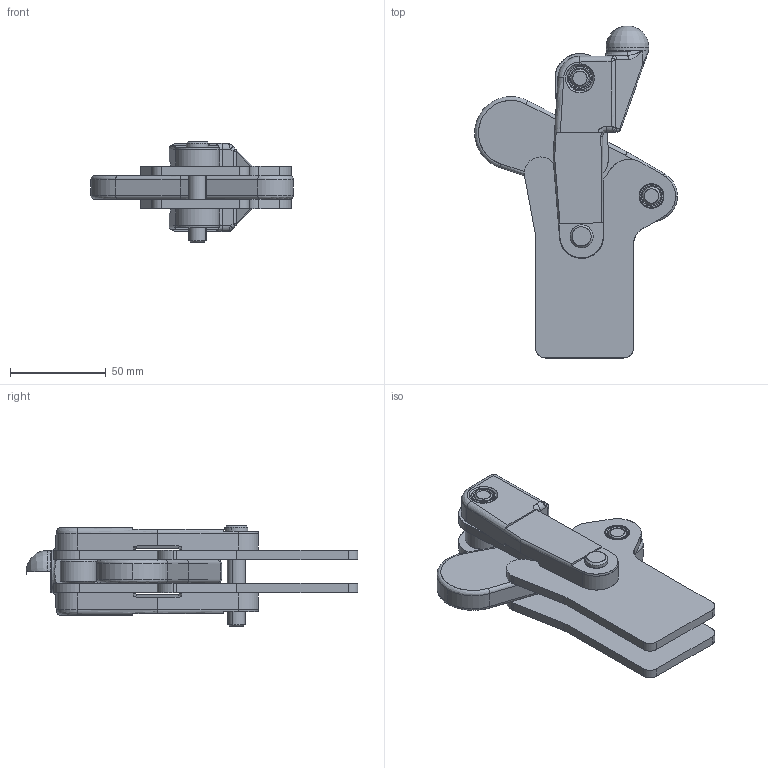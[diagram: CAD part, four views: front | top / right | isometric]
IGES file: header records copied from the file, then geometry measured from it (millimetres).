
Start section: SolidWorks IGES file using analytic representation for surfaces
Global section: file name: D:\GH Files\GH-SW-FILES\GH7\70505,70510,70515\70515.IGS; native system: SolidWorks 2006 by SolidWorks Corporation; preprocessor: SolidWorks 2006 by SolidWorks Corporation; author: Administrator; date: 060705.123031; units: millimetre
Bounding box: 105.93 x 173.45 x 53 mm (x, y, z)
Surface area: 72439.8 mm2 (no closed solid volume)
Topology: 0 solids, 0 shells, 374 faces, 5112 edges, 5107 vertices
Faces by surface type: revolution 243, bspline 131
